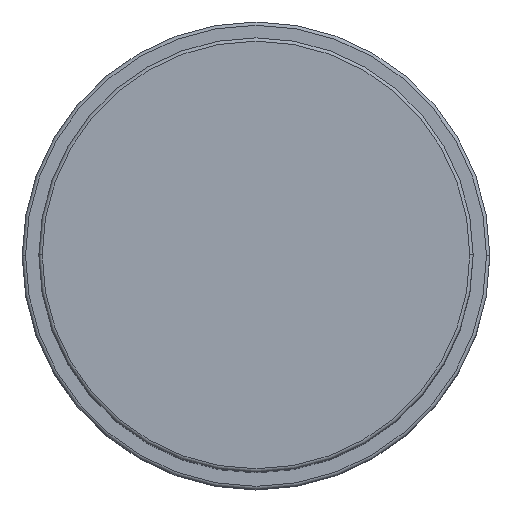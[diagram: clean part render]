
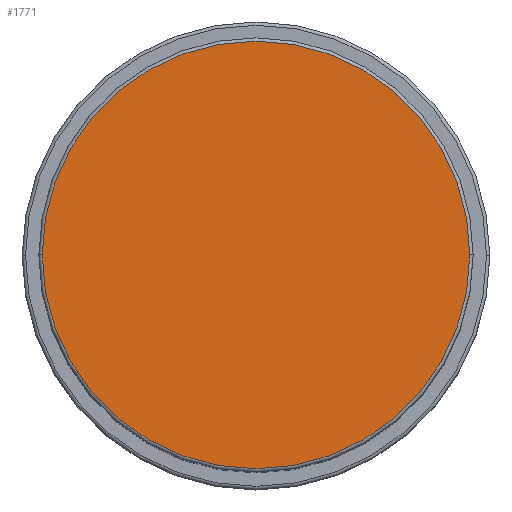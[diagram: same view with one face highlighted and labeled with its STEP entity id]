
A CAD part, top view. The second image highlights one B-rep face of the part: STEP entity #1771.
In plain terms, the highlighted planar face has unit normal (0, 0, 1).
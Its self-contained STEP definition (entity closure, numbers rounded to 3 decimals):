
#51 = CARTESIAN_POINT ( 'NONE',  ( 0., 0., 102. ) ) ;
#68 = DIRECTION ( 'NONE',  ( 0., 0., 1. ) ) ;
#95 = VERTEX_POINT ( 'NONE', #444 ) ;
#200 = DIRECTION ( 'NONE',  ( 1., 0., 0. ) ) ;
#202 = CIRCLE ( 'NONE', #1448, 32. ) ;
#218 = DIRECTION ( 'NONE',  ( 0., 0., 1. ) ) ;
#238 = CARTESIAN_POINT ( 'NONE',  ( -32., 0., 102. ) ) ;
#340 = PLANE ( 'NONE',  #1245 ) ;
#416 = AXIS2_PLACEMENT_3D ( 'NONE', #1457, #515, #200 ) ;
#444 = CARTESIAN_POINT ( 'NONE',  ( 32., 0., 102. ) ) ;
#515 = DIRECTION ( 'NONE',  ( 0., 0., 1. ) ) ;
#854 = DIRECTION ( 'NONE',  ( 1., 0., 0. ) ) ;
#984 = CARTESIAN_POINT ( 'NONE',  ( 0., 0., 102. ) ) ;
#1245 = AXIS2_PLACEMENT_3D ( 'NONE', #51, #218, #1307 ) ;
#1307 = DIRECTION ( 'NONE',  ( 1., 0., 0. ) ) ;
#1318 = VERTEX_POINT ( 'NONE', #238 ) ;
#1390 = ORIENTED_EDGE ( 'NONE', *, *, #1808, .T. ) ;
#1399 = FACE_OUTER_BOUND ( 'NONE', #1655, .T. ) ;
#1448 = AXIS2_PLACEMENT_3D ( 'NONE', #984, #68, #854 ) ;
#1457 = CARTESIAN_POINT ( 'NONE',  ( 0., 0., 102. ) ) ;
#1550 = ORIENTED_EDGE ( 'NONE', *, *, #1727, .T. ) ;
#1655 = EDGE_LOOP ( 'NONE', ( #1550, #1390 ) ) ;
#1727 = EDGE_CURVE ( 'NONE', #95, #1318, #2038, .T. ) ;
#1771 = ADVANCED_FACE ( 'NONE', ( #1399 ), #340, .T. ) ;
#1808 = EDGE_CURVE ( 'NONE', #1318, #95, #202, .T. ) ;
#2038 = CIRCLE ( 'NONE', #416, 32. ) ;
